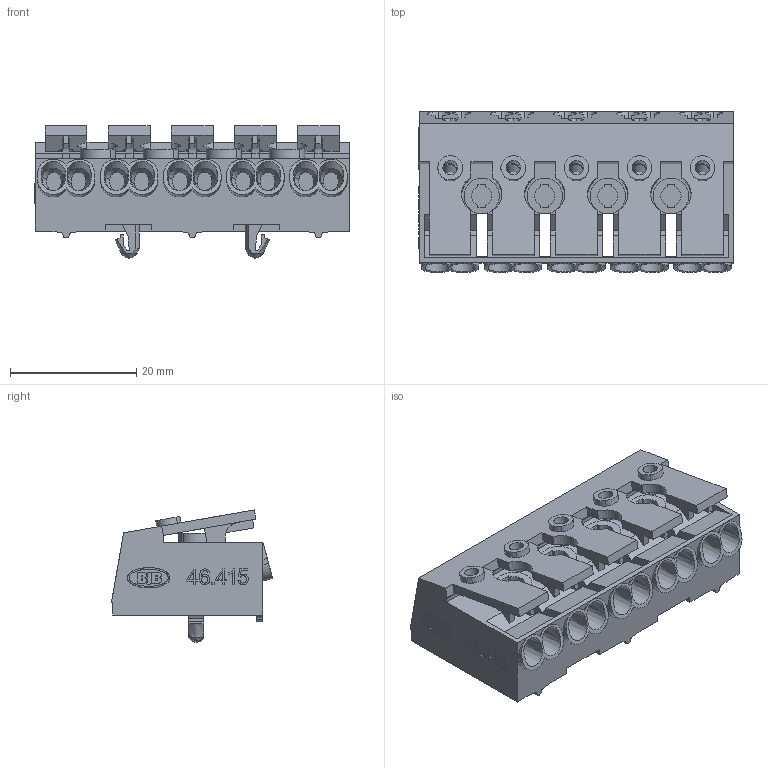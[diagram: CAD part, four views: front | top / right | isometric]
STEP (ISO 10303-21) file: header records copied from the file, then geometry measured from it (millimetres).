
FILE_DESCRIPTION((' '),'1');
FILE_NAME('006YK03Y09.stp','2009-03-04 T',(' '),(' '),'STEP Interface v1.0 by CT CoreTechnologie','3D_Evolution v1.0 by CT CoreTechnologie',' ');
FILE_SCHEMA(('CONFIG_CONTROL_DESIGN'));
Length unit declared in the file: millimetre
Products named in the file (1): 006YK03Y09
Bounding box: 49.9 x 25.55 x 20.98 mm (x, y, z)
Volume: 11299.7 mm3; surface area: 9183.2 mm2
Topology: 1 solids, 1 shells, 652 faces, 1852 edges, 1230 vertices
Faces by surface type: plane 407, cylinder 191, bspline 54
Entity records: 31073 total; most frequent: CARTESIAN_POINT 8361, ORIENTED_EDGE 3616, DIRECTION 3312, EDGE_CURVE 1808, VECTOR 1266, LINE 1266, VERTEX_POINT 1212, AXIS2_PLACEMENT_3D 1023
